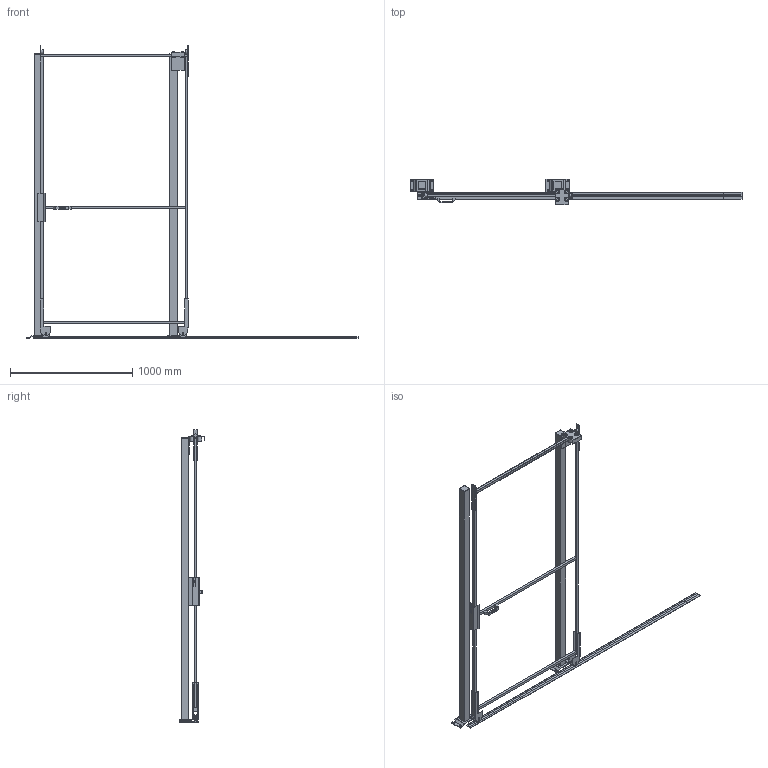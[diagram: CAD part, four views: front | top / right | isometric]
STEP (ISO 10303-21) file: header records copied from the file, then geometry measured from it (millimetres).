
FILE_DESCRIPTION(/* description */ (''),/* implementation_level */ '2;1');
FILE_NAME(/* name */ 'C:\SafeGuarding\ELABORATI\Drawing5_2025-05-05-12-52-07.stp',/* time_stamp */ '2025-05-05T12:52:11+02:00',/* author */ ('admin'),/* organization */ (''),/* preprocessor_version */ 'ST-DEVELOPER v18.1',/* originating_system */ 'AutoCAD Mechanical',/* authorisation */ '');
FILE_SCHEMA (('AUTOMOTIVE_DESIGN { 1 0 10303 214 3 1 1 }'));
Length unit declared in the file: millimetre
Products named in the file (3): Product; R_VFPA.REPE20.12002200; P_VFMA.V260SDU.2320
Assembly tree (3 placements, depth 2):
  Product
    R_VFPA.REPE20.12002200
    P_VFMA.V260SDU.2320  x2
Bounding box: 2711.45 x 210 x 2390 mm (x, y, z)
Volume: 22262082.1 mm3; surface area: 3246120.1 mm2
Topology: 35 solids, 46 shells, 357 faces, 1109 edges, 1045 vertices
Faces by surface type: plane 311, cylinder 40, cone 4, sphere 2
Full cylindrical faces by diameter (mm): 9 x4, 11 x8, 13 x4, 18 x4, 30 x2, 36 x4, 58 x4
Entity records: 11534 total; most frequent: CARTESIAN_POINT 2459, DIRECTION 1761, ORIENTED_EDGE 1622, EDGE_CURVE 860, LINE 791, VECTOR 791, VERTEX_POINT 614, AXIS2_PLACEMENT_3D 485
